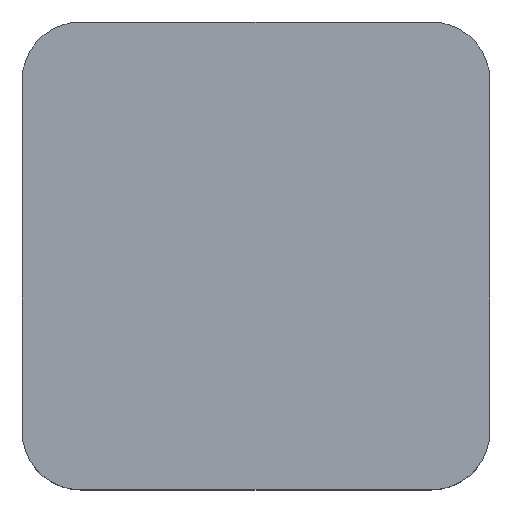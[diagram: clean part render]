
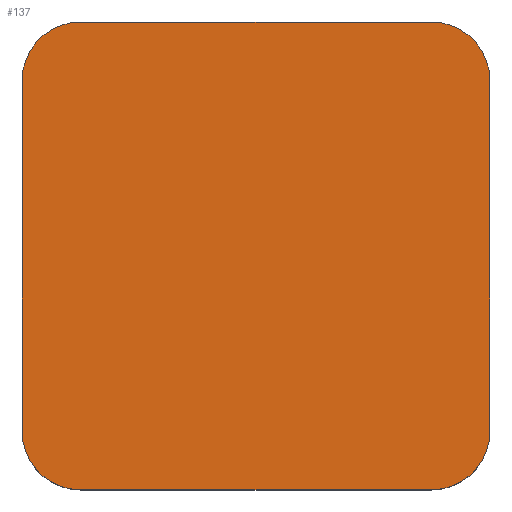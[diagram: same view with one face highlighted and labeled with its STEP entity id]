
A CAD part, top view. The second image highlights one B-rep face of the part: STEP entity #137.
In plain terms, the highlighted planar face has unit normal (0, 0, 1).
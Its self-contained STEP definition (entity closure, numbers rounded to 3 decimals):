
#21 = EDGE_CURVE('',#22,#24,#26,.T.);
#22 = VERTEX_POINT('',#23);
#23 = CARTESIAN_POINT('',(-6.,-4.5,1.5));
#24 = VERTEX_POINT('',#25);
#25 = CARTESIAN_POINT('',(-6.,4.5,1.5));
#26 = SURFACE_CURVE('',#27,(#31,#43),.PCURVE_S1.);
#27 = LINE('',#28,#29);
#28 = CARTESIAN_POINT('',(-6.,-6.,1.5));
#29 = VECTOR('',#30,1.);
#30 = DIRECTION('',(0.,1.,0.));
#31 = PCURVE('',#32,#37);
#32 = PLANE('',#33);
#33 = AXIS2_PLACEMENT_3D('',#34,#35,#36);
#34 = CARTESIAN_POINT('',(-6.,-6.,-1.5));
#35 = DIRECTION('',(1.,0.,0.));
#36 = DIRECTION('',(0.,0.,1.));
#37 = DEFINITIONAL_REPRESENTATION('',(#38),#42);
#38 = LINE('',#39,#40);
#39 = CARTESIAN_POINT('',(3.,0.));
#40 = VECTOR('',#41,1.);
#41 = DIRECTION('',(0.,-1.));
#42 = ( GEOMETRIC_REPRESENTATION_CONTEXT(2) 
PARAMETRIC_REPRESENTATION_CONTEXT() REPRESENTATION_CONTEXT('2D SPACE',''
  ) );
#43 = PCURVE('',#44,#49);
#44 = PLANE('',#45);
#45 = AXIS2_PLACEMENT_3D('',#46,#47,#48);
#46 = CARTESIAN_POINT('',(-6.,-6.,1.5));
#47 = DIRECTION('',(0.,0.,1.));
#48 = DIRECTION('',(1.,0.,0.));
#49 = DEFINITIONAL_REPRESENTATION('',(#50),#54);
#50 = LINE('',#51,#52);
#51 = CARTESIAN_POINT('',(0.,0.));
#52 = VECTOR('',#53,1.);
#53 = DIRECTION('',(0.,1.));
#54 = ( GEOMETRIC_REPRESENTATION_CONTEXT(2) 
PARAMETRIC_REPRESENTATION_CONTEXT() REPRESENTATION_CONTEXT('2D SPACE',''
  ) );
#72 = CYLINDRICAL_SURFACE('',#73,1.5);
#73 = AXIS2_PLACEMENT_3D('',#74,#75,#76);
#74 = CARTESIAN_POINT('',(-4.5,-4.5,-1.5));
#75 = DIRECTION('',(0.,0.,1.));
#76 = DIRECTION('',(-1.,-0.,0.));
#126 = CYLINDRICAL_SURFACE('',#127,1.5);
#127 = AXIS2_PLACEMENT_3D('',#128,#129,#130);
#128 = CARTESIAN_POINT('',(-4.5,4.5,-1.5));
#129 = DIRECTION('',(0.,0.,1.));
#130 = DIRECTION('',(-1.,-0.,0.));
#137 = ADVANCED_FACE('',(#138),#44,.T.);
#138 = FACE_BOUND('',#139,.T.);
#139 = EDGE_LOOP('',(#140,#141,#165,#193,#226,#254,#283,#311));
#140 = ORIENTED_EDGE('',*,*,#21,.F.);
#141 = ORIENTED_EDGE('',*,*,#142,.T.);
#142 = EDGE_CURVE('',#22,#143,#145,.T.);
#143 = VERTEX_POINT('',#144);
#144 = CARTESIAN_POINT('',(-4.5,-6.,1.5));
#145 = SURFACE_CURVE('',#146,(#151,#158),.PCURVE_S1.);
#146 = CIRCLE('',#147,1.5);
#147 = AXIS2_PLACEMENT_3D('',#148,#149,#150);
#148 = CARTESIAN_POINT('',(-4.5,-4.5,1.5));
#149 = DIRECTION('',(0.,0.,1.));
#150 = DIRECTION('',(0.,-1.,0.));
#151 = PCURVE('',#44,#152);
#152 = DEFINITIONAL_REPRESENTATION('',(#153),#157);
#153 = CIRCLE('',#154,1.5);
#154 = AXIS2_PLACEMENT_2D('',#155,#156);
#155 = CARTESIAN_POINT('',(1.5,1.5));
#156 = DIRECTION('',(0.,-1.));
#157 = ( GEOMETRIC_REPRESENTATION_CONTEXT(2) 
PARAMETRIC_REPRESENTATION_CONTEXT() REPRESENTATION_CONTEXT('2D SPACE',''
  ) );
#158 = PCURVE('',#72,#159);
#159 = DEFINITIONAL_REPRESENTATION('',(#160),#164);
#160 = LINE('',#161,#162);
#161 = CARTESIAN_POINT('',(-4.712,3.));
#162 = VECTOR('',#163,1.);
#163 = DIRECTION('',(1.,0.));
#164 = ( GEOMETRIC_REPRESENTATION_CONTEXT(2) 
PARAMETRIC_REPRESENTATION_CONTEXT() REPRESENTATION_CONTEXT('2D SPACE',''
  ) );
#165 = ORIENTED_EDGE('',*,*,#166,.T.);
#166 = EDGE_CURVE('',#143,#167,#169,.T.);
#167 = VERTEX_POINT('',#168);
#168 = CARTESIAN_POINT('',(4.5,-6.,1.5));
#169 = SURFACE_CURVE('',#170,(#174,#181),.PCURVE_S1.);
#170 = LINE('',#171,#172);
#171 = CARTESIAN_POINT('',(-6.,-6.,1.5));
#172 = VECTOR('',#173,1.);
#173 = DIRECTION('',(1.,0.,0.));
#174 = PCURVE('',#44,#175);
#175 = DEFINITIONAL_REPRESENTATION('',(#176),#180);
#176 = LINE('',#177,#178);
#177 = CARTESIAN_POINT('',(0.,0.));
#178 = VECTOR('',#179,1.);
#179 = DIRECTION('',(1.,0.));
#180 = ( GEOMETRIC_REPRESENTATION_CONTEXT(2) 
PARAMETRIC_REPRESENTATION_CONTEXT() REPRESENTATION_CONTEXT('2D SPACE',''
  ) );
#181 = PCURVE('',#182,#187);
#182 = PLANE('',#183);
#183 = AXIS2_PLACEMENT_3D('',#184,#185,#186);
#184 = CARTESIAN_POINT('',(-6.,-6.,-1.5));
#185 = DIRECTION('',(0.,1.,0.));
#186 = DIRECTION('',(0.,0.,1.));
#187 = DEFINITIONAL_REPRESENTATION('',(#188),#192);
#188 = LINE('',#189,#190);
#189 = CARTESIAN_POINT('',(3.,0.));
#190 = VECTOR('',#191,1.);
#191 = DIRECTION('',(0.,1.));
#192 = ( GEOMETRIC_REPRESENTATION_CONTEXT(2) 
PARAMETRIC_REPRESENTATION_CONTEXT() REPRESENTATION_CONTEXT('2D SPACE',''
  ) );
#193 = ORIENTED_EDGE('',*,*,#194,.F.);
#194 = EDGE_CURVE('',#195,#167,#197,.T.);
#195 = VERTEX_POINT('',#196);
#196 = CARTESIAN_POINT('',(6.,-4.5,1.5));
#197 = SURFACE_CURVE('',#198,(#203,#214),.PCURVE_S1.);
#198 = CIRCLE('',#199,1.5);
#199 = AXIS2_PLACEMENT_3D('',#200,#201,#202);
#200 = CARTESIAN_POINT('',(4.5,-4.5,1.5));
#201 = DIRECTION('',(-0.,-0.,-1.));
#202 = DIRECTION('',(0.,-1.,0.));
#203 = PCURVE('',#44,#204);
#204 = DEFINITIONAL_REPRESENTATION('',(#205),#213);
#205 = ( BOUNDED_CURVE() B_SPLINE_CURVE(2,(#206,#207,#208,#209,#210,#211
,#212),.UNSPECIFIED.,.T.,.F.) B_SPLINE_CURVE_WITH_KNOTS((1,2,2,2,2,1),(
    -2.094,0.,2.094,4.189,6.283,
8.378),.UNSPECIFIED.) CURVE() GEOMETRIC_REPRESENTATION_ITEM() 
RATIONAL_B_SPLINE_CURVE((1.,0.5,1.,0.5,1.,0.5,1.)) REPRESENTATION_ITEM(
  '') );
#206 = CARTESIAN_POINT('',(10.5,0.));
#207 = CARTESIAN_POINT('',(7.902,0.));
#208 = CARTESIAN_POINT('',(9.201,2.25));
#209 = CARTESIAN_POINT('',(10.5,4.5));
#210 = CARTESIAN_POINT('',(11.799,2.25));
#211 = CARTESIAN_POINT('',(13.098,0.));
#212 = CARTESIAN_POINT('',(10.5,0.));
#213 = ( GEOMETRIC_REPRESENTATION_CONTEXT(2) 
PARAMETRIC_REPRESENTATION_CONTEXT() REPRESENTATION_CONTEXT('2D SPACE',''
  ) );
#214 = PCURVE('',#215,#220);
#215 = CYLINDRICAL_SURFACE('',#216,1.5);
#216 = AXIS2_PLACEMENT_3D('',#217,#218,#219);
#217 = CARTESIAN_POINT('',(4.5,-4.5,-1.5));
#218 = DIRECTION('',(0.,0.,1.));
#219 = DIRECTION('',(1.,0.,-0.));
#220 = DEFINITIONAL_REPRESENTATION('',(#221),#225);
#221 = LINE('',#222,#223);
#222 = CARTESIAN_POINT('',(4.712,3.));
#223 = VECTOR('',#224,1.);
#224 = DIRECTION('',(-1.,0.));
#225 = ( GEOMETRIC_REPRESENTATION_CONTEXT(2) 
PARAMETRIC_REPRESENTATION_CONTEXT() REPRESENTATION_CONTEXT('2D SPACE',''
  ) );
#226 = ORIENTED_EDGE('',*,*,#227,.T.);
#227 = EDGE_CURVE('',#195,#228,#230,.T.);
#228 = VERTEX_POINT('',#229);
#229 = CARTESIAN_POINT('',(6.,4.5,1.5));
#230 = SURFACE_CURVE('',#231,(#235,#242),.PCURVE_S1.);
#231 = LINE('',#232,#233);
#232 = CARTESIAN_POINT('',(6.,-6.,1.5));
#233 = VECTOR('',#234,1.);
#234 = DIRECTION('',(0.,1.,0.));
#235 = PCURVE('',#44,#236);
#236 = DEFINITIONAL_REPRESENTATION('',(#237),#241);
#237 = LINE('',#238,#239);
#238 = CARTESIAN_POINT('',(12.,0.));
#239 = VECTOR('',#240,1.);
#240 = DIRECTION('',(0.,1.));
#241 = ( GEOMETRIC_REPRESENTATION_CONTEXT(2) 
PARAMETRIC_REPRESENTATION_CONTEXT() REPRESENTATION_CONTEXT('2D SPACE',''
  ) );
#242 = PCURVE('',#243,#248);
#243 = PLANE('',#244);
#244 = AXIS2_PLACEMENT_3D('',#245,#246,#247);
#245 = CARTESIAN_POINT('',(6.,-6.,-1.5));
#246 = DIRECTION('',(1.,0.,0.));
#247 = DIRECTION('',(0.,0.,1.));
#248 = DEFINITIONAL_REPRESENTATION('',(#249),#253);
#249 = LINE('',#250,#251);
#250 = CARTESIAN_POINT('',(3.,0.));
#251 = VECTOR('',#252,1.);
#252 = DIRECTION('',(0.,-1.));
#253 = ( GEOMETRIC_REPRESENTATION_CONTEXT(2) 
PARAMETRIC_REPRESENTATION_CONTEXT() REPRESENTATION_CONTEXT('2D SPACE',''
  ) );
#254 = ORIENTED_EDGE('',*,*,#255,.T.);
#255 = EDGE_CURVE('',#228,#256,#258,.T.);
#256 = VERTEX_POINT('',#257);
#257 = CARTESIAN_POINT('',(4.5,6.,1.5));
#258 = SURFACE_CURVE('',#259,(#264,#271),.PCURVE_S1.);
#259 = CIRCLE('',#260,1.5);
#260 = AXIS2_PLACEMENT_3D('',#261,#262,#263);
#261 = CARTESIAN_POINT('',(4.5,4.5,1.5));
#262 = DIRECTION('',(0.,0.,1.));
#263 = DIRECTION('',(0.,-1.,0.));
#264 = PCURVE('',#44,#265);
#265 = DEFINITIONAL_REPRESENTATION('',(#266),#270);
#266 = CIRCLE('',#267,1.5);
#267 = AXIS2_PLACEMENT_2D('',#268,#269);
#268 = CARTESIAN_POINT('',(10.5,10.5));
#269 = DIRECTION('',(0.,-1.));
#270 = ( GEOMETRIC_REPRESENTATION_CONTEXT(2) 
PARAMETRIC_REPRESENTATION_CONTEXT() REPRESENTATION_CONTEXT('2D SPACE',''
  ) );
#271 = PCURVE('',#272,#277);
#272 = CYLINDRICAL_SURFACE('',#273,1.5);
#273 = AXIS2_PLACEMENT_3D('',#274,#275,#276);
#274 = CARTESIAN_POINT('',(4.5,4.5,-1.5));
#275 = DIRECTION('',(0.,0.,1.));
#276 = DIRECTION('',(1.,0.,-0.));
#277 = DEFINITIONAL_REPRESENTATION('',(#278),#282);
#278 = LINE('',#279,#280);
#279 = CARTESIAN_POINT('',(-1.571,3.));
#280 = VECTOR('',#281,1.);
#281 = DIRECTION('',(1.,0.));
#282 = ( GEOMETRIC_REPRESENTATION_CONTEXT(2) 
PARAMETRIC_REPRESENTATION_CONTEXT() REPRESENTATION_CONTEXT('2D SPACE',''
  ) );
#283 = ORIENTED_EDGE('',*,*,#284,.F.);
#284 = EDGE_CURVE('',#285,#256,#287,.T.);
#285 = VERTEX_POINT('',#286);
#286 = CARTESIAN_POINT('',(-4.5,6.,1.5));
#287 = SURFACE_CURVE('',#288,(#292,#299),.PCURVE_S1.);
#288 = LINE('',#289,#290);
#289 = CARTESIAN_POINT('',(-6.,6.,1.5));
#290 = VECTOR('',#291,1.);
#291 = DIRECTION('',(1.,0.,0.));
#292 = PCURVE('',#44,#293);
#293 = DEFINITIONAL_REPRESENTATION('',(#294),#298);
#294 = LINE('',#295,#296);
#295 = CARTESIAN_POINT('',(0.,12.));
#296 = VECTOR('',#297,1.);
#297 = DIRECTION('',(1.,0.));
#298 = ( GEOMETRIC_REPRESENTATION_CONTEXT(2) 
PARAMETRIC_REPRESENTATION_CONTEXT() REPRESENTATION_CONTEXT('2D SPACE',''
  ) );
#299 = PCURVE('',#300,#305);
#300 = PLANE('',#301);
#301 = AXIS2_PLACEMENT_3D('',#302,#303,#304);
#302 = CARTESIAN_POINT('',(-6.,6.,-1.5));
#303 = DIRECTION('',(0.,1.,0.));
#304 = DIRECTION('',(0.,0.,1.));
#305 = DEFINITIONAL_REPRESENTATION('',(#306),#310);
#306 = LINE('',#307,#308);
#307 = CARTESIAN_POINT('',(3.,0.));
#308 = VECTOR('',#309,1.);
#309 = DIRECTION('',(0.,1.));
#310 = ( GEOMETRIC_REPRESENTATION_CONTEXT(2) 
PARAMETRIC_REPRESENTATION_CONTEXT() REPRESENTATION_CONTEXT('2D SPACE',''
  ) );
#311 = ORIENTED_EDGE('',*,*,#312,.F.);
#312 = EDGE_CURVE('',#24,#285,#313,.T.);
#313 = SURFACE_CURVE('',#314,(#319,#330),.PCURVE_S1.);
#314 = CIRCLE('',#315,1.5);
#315 = AXIS2_PLACEMENT_3D('',#316,#317,#318);
#316 = CARTESIAN_POINT('',(-4.5,4.5,1.5));
#317 = DIRECTION('',(-0.,-0.,-1.));
#318 = DIRECTION('',(0.,-1.,0.));
#319 = PCURVE('',#44,#320);
#320 = DEFINITIONAL_REPRESENTATION('',(#321),#329);
#321 = ( BOUNDED_CURVE() B_SPLINE_CURVE(2,(#322,#323,#324,#325,#326,#327
,#328),.UNSPECIFIED.,.T.,.F.) B_SPLINE_CURVE_WITH_KNOTS((1,2,2,2,2,1),(
    -2.094,0.,2.094,4.189,6.283,
8.378),.UNSPECIFIED.) CURVE() GEOMETRIC_REPRESENTATION_ITEM() 
RATIONAL_B_SPLINE_CURVE((1.,0.5,1.,0.5,1.,0.5,1.)) REPRESENTATION_ITEM(
  '') );
#322 = CARTESIAN_POINT('',(1.5,9.));
#323 = CARTESIAN_POINT('',(-1.098,9.));
#324 = CARTESIAN_POINT('',(0.201,11.25));
#325 = CARTESIAN_POINT('',(1.5,13.5));
#326 = CARTESIAN_POINT('',(2.799,11.25));
#327 = CARTESIAN_POINT('',(4.098,9.));
#328 = CARTESIAN_POINT('',(1.5,9.));
#329 = ( GEOMETRIC_REPRESENTATION_CONTEXT(2) 
PARAMETRIC_REPRESENTATION_CONTEXT() REPRESENTATION_CONTEXT('2D SPACE',''
  ) );
#330 = PCURVE('',#126,#331);
#331 = DEFINITIONAL_REPRESENTATION('',(#332),#336);
#332 = LINE('',#333,#334);
#333 = CARTESIAN_POINT('',(1.571,3.));
#334 = VECTOR('',#335,1.);
#335 = DIRECTION('',(-1.,0.));
#336 = ( GEOMETRIC_REPRESENTATION_CONTEXT(2) 
PARAMETRIC_REPRESENTATION_CONTEXT() REPRESENTATION_CONTEXT('2D SPACE',''
  ) );
